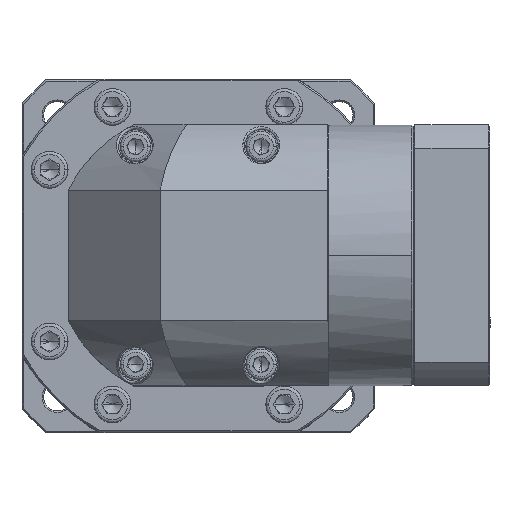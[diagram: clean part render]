
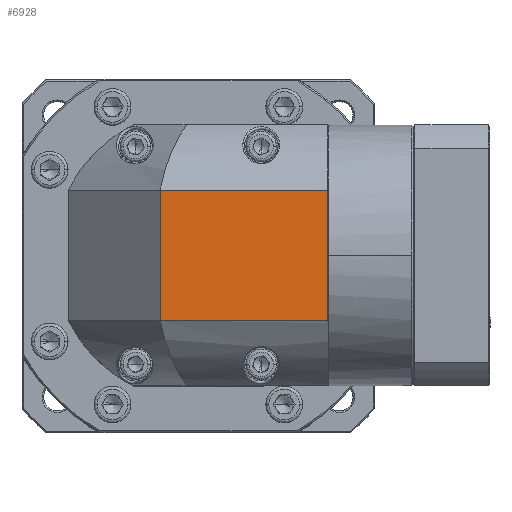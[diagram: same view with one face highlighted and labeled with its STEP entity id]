
A CAD part, top view. The second image highlights one B-rep face of the part: STEP entity #6928.
In plain terms, the highlighted planar face has unit normal (0, 0, 1).
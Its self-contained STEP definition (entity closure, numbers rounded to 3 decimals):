
#4131 = EDGE_CURVE ( 'NONE', #55918, #32532, #90517, .T. ) ;
#6928 = ADVANCED_FACE ( 'NONE', ( #80851 ), #41708, .T. ) ;
#13498 = VECTOR ( 'NONE', #126651, 1000. ) ;
#18172 = DIRECTION ( 'NONE',  ( -1., 0., 0. ) ) ;
#18352 = CARTESIAN_POINT ( 'NONE',  ( -96.209, 19.148, 319.002 ) ) ;
#19424 = ORIENTED_EDGE ( 'NONE', *, *, #85666, .F. ) ;
#23633 = AXIS2_PLACEMENT_3D ( 'NONE', #142686, #108594, #75621 ) ;
#23900 = CARTESIAN_POINT ( 'NONE',  ( 3.791, -23.279, 319.002 ) ) ;
#25465 = CARTESIAN_POINT ( 'NONE',  ( -50.709, 19.148, 319.002 ) ) ;
#29954 = VECTOR ( 'NONE', #18172, 1000. ) ;
#32532 = VERTEX_POINT ( 'NONE', #129917 ) ;
#36310 = CARTESIAN_POINT ( 'NONE',  ( -50.709, -23.279, 319.002 ) ) ;
#37033 = ORIENTED_EDGE ( 'NONE', *, *, #4131, .F. ) ;
#41708 = PLANE ( 'NONE',  #23633 ) ;
#43740 = LINE ( 'NONE', #46738, #13498 ) ;
#46738 = CARTESIAN_POINT ( 'NONE',  ( 3.791, -2.065, 319.002 ) ) ;
#52414 = EDGE_CURVE ( 'NONE', #136617, #32532, #43740, .T. ) ;
#55918 = VERTEX_POINT ( 'NONE', #25465 ) ;
#72779 = CARTESIAN_POINT ( 'NONE',  ( -50.709, -2.065, 319.002 ) ) ;
#75621 = DIRECTION ( 'NONE',  ( 1., 0., 0. ) ) ;
#77356 = VECTOR ( 'NONE', #119679, 1000. ) ;
#80851 = FACE_OUTER_BOUND ( 'NONE', #132030, .T. ) ;
#85322 = LINE ( 'NONE', #97470, #29954 ) ;
#85666 = EDGE_CURVE ( 'NONE', #136564, #55918, #107735, .T. ) ;
#87908 = EDGE_CURVE ( 'NONE', #136617, #136564, #85322, .T. ) ;
#90517 = LINE ( 'NONE', #18352, #113734 ) ;
#97309 = ORIENTED_EDGE ( 'NONE', *, *, #87908, .F. ) ;
#97470 = CARTESIAN_POINT ( 'NONE',  ( -96.209, -23.279, 319.002 ) ) ;
#105327 = ORIENTED_EDGE ( 'NONE', *, *, #52414, .T. ) ;
#107735 = LINE ( 'NONE', #72779, #77356 ) ;
#108102 = DIRECTION ( 'NONE',  ( 1., 0., 0. ) ) ;
#108594 = DIRECTION ( 'NONE',  ( 0., 0., 1. ) ) ;
#113734 = VECTOR ( 'NONE', #108102, 1000. ) ;
#119679 = DIRECTION ( 'NONE',  ( 0., 1., 0. ) ) ;
#126651 = DIRECTION ( 'NONE',  ( 0., 1., 0. ) ) ;
#129917 = CARTESIAN_POINT ( 'NONE',  ( 3.791, 19.148, 319.002 ) ) ;
#132030 = EDGE_LOOP ( 'NONE', ( #37033, #19424, #97309, #105327 ) ) ;
#136564 = VERTEX_POINT ( 'NONE', #36310 ) ;
#136617 = VERTEX_POINT ( 'NONE', #23900 ) ;
#142686 = CARTESIAN_POINT ( 'NONE',  ( -38.209, -2.065, 319.002 ) ) ;
